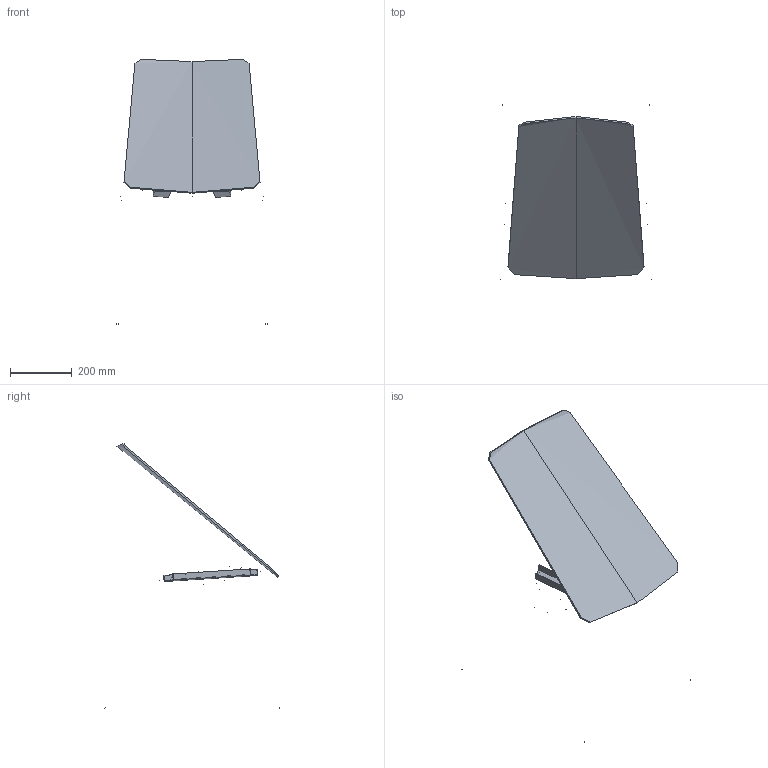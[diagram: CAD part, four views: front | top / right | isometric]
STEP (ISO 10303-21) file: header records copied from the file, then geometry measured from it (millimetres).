
FILE_DESCRIPTION(/* description */ (''),/* implementation_level */ '2;1');
FILE_NAME(/* name */ 'Evo 010',/* time_stamp */ '2023-02-03T18:57:17+01:00',/* author */ (''),/* organization */ (''),/* preprocessor_version */ 'ST-DEVELOPER v16.5',/* originating_system */ 'Rhino 7.26',/* authorisation */ '');
FILE_SCHEMA (('CONFIG_CONTROL_DESIGN'));
Length unit declared in the file: millimetre
Products named in the file (1): Document
Bounding box: 488.16 x 569.47 x 862.02 mm (x, y, z)
Volume: 95868.5 mm3; surface area: 1057865.5 mm2
Topology: 2 solids, 16 shells, 66 faces, 148 edges, 96 vertices
Faces by surface type: bspline 30, plane 24, cylinder 12
Full cylindrical faces by diameter (mm): 22 x12
Entity records: 4795 total; most frequent: CARTESIAN_POINT 3738, ORIENTED_EDGE 264, EDGE_CURVE 144, B_SPLINE_CURVE_WITH_KNOTS 94, VERTEX_POINT 92, ADVANCED_FACE 66, FACE_OUTER_BOUND 66, EDGE_LOOP 66
